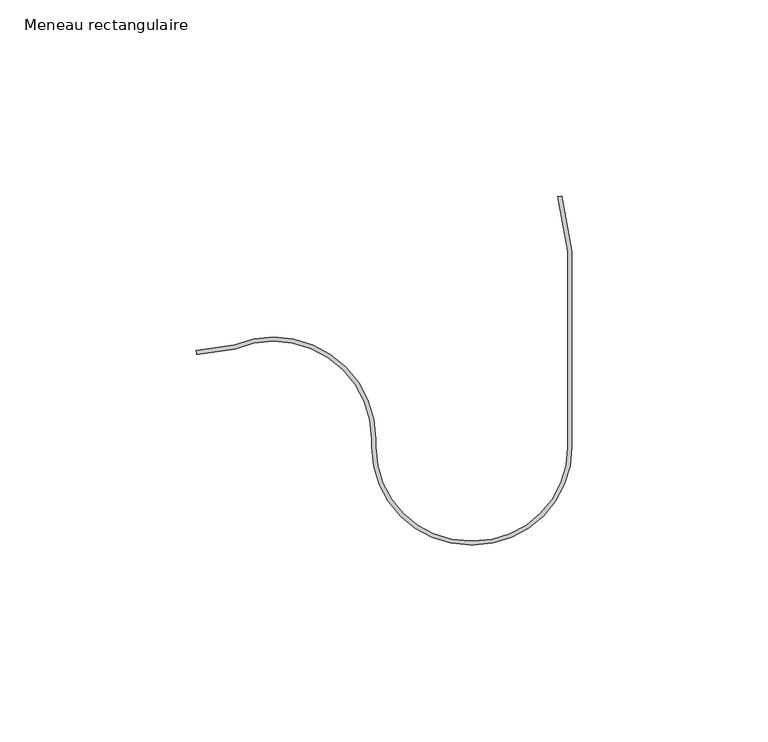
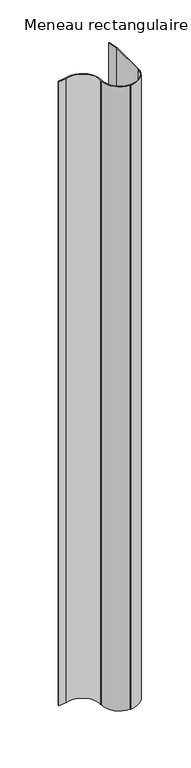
"""IFC4 building model written with IfcOpenShell, lengths in millimetres: member geometry, Meneau rectangulaire : Jonction contre mur Droite V."""

from ifc_helpers import new_model, si_unit, point, frame, frame_2d, origin, place, context, project, spatial, polyline, circle_curve, trimmed, segment, composite_curve, outline, extrude, source, transform, mapped, element, save


def meneau_rectangulaire_d9416821(model_context):
    return source(origin(), model_context, "Body", "SweptSolid", [
        extrude(outline(composite_curve([segment(polyline([(-1.0, 26.3569132), (-3.6043568, 40.2231847), (-2.6384309, 40.4046045), (0.0, 26.3569132), (0.0, -23.6430868)]), True, "CONTINUOUS"), segment(trimmed(circle_curve(frame_2d((-25.0, -23.6430868)), 25.0), [point((0.0, -23.6430868))], [point((-25.0, -48.6430868))], False, "CARTESIAN"), True, "CONTINUOUS"), segment(polyline([(-25.0, -48.6430868), (-26.0, -48.6430868)]), True, "CONTINUOUS"), segment(trimmed(circle_curve(frame_2d((-26.0, -23.6430868)), 25.0), [point((-26.0, -48.6430868))], [point((-51.0, -23.6430868))], False, "CARTESIAN"), True, "CONTINUOUS"), segment(polyline([(-51.0, -23.6430868), (-51.0, -21.6218737)]), True, "CONTINUOUS"), segment(trimmed(circle_curve(frame_2d((-76.0, -21.6218737)), 25.0), [point((-51.0, -21.6218737))], [point((-85.7659612, 1.391731))], True, "CARTESIAN"), True, "CONTINUOUS"), segment(polyline([(-85.7659612, 1.391731), (-95.6686418, 0.0), (-95.8078149, 0.9902681), (-86.0341553, 2.3638663)]), True, "CONTINUOUS"), segment(trimmed(circle_curve(frame_2d((-76.0, -21.6218737)), 26.0), [point((-86.0341553, 2.3638663))], [point((-50.0, -21.6218737))], False, "CARTESIAN"), True, "CONTINUOUS"), segment(polyline([(-50.0, -21.6218737), (-50.0, -23.6430868)]), True, "CONTINUOUS"), segment(trimmed(circle_curve(frame_2d((-26.0, -23.6430868)), 24.0), [point((-50.0, -23.6430868))], [point((-26.0, -47.6430868))], True, "CARTESIAN"), True, "CONTINUOUS"), segment(polyline([(-26.0, -47.6430868), (-25.0, -47.6430868)]), True, "CONTINUOUS"), segment(trimmed(circle_curve(frame_2d((-25.0, -23.6430868)), 24.0), [point((-25.0, -47.6430868))], [point((-1.0, -23.6430868))], True, "CARTESIAN"), True, "CONTINUOUS"), segment(polyline([(-1.0, -23.6430868), (-1.0, 26.3569132)]), True, "CONTINUOUS")], self_intersect=False)), frame((0.0, 0.0, -908.8118283), z_axis=(0.0, 0.0, 1.0), x_axis=(1.0, 0.0, 0.0)), (0.0, 0.0, 1.0), 908.8118283),
    ])


if __name__ == "__main__":
    model = new_model("IFC4")
    model_context = context("Model", 3, world=origin())
    ifc_project = project(units=[si_unit("LENGTHUNIT", "METRE", prefix="MILLI")], contexts=[model_context])
    site = spatial("IfcSite", under=ifc_project)
    building = spatial("IfcBuilding", under=site)
    placement = place(None, origin())
    meneau_rectangulaire_shape = meneau_rectangulaire_d9416821(model_context)
    element("IfcMember", 1, ObjectType="Meneau rectangulaire : Jonction contre mur Droite V", at=placement, inside=building, context=model_context, shape_type="MappedRepresentation", body=[
        mapped(meneau_rectangulaire_shape, transform((0.0, 0.0, 0.0), x_axis=(1.0, 0.0, 0.0), y_axis=(0.0, 1.0, 0.0), z_axis=(0.0, 0.0, 1.0))),
    ])
    save(model, "model.ifc")
